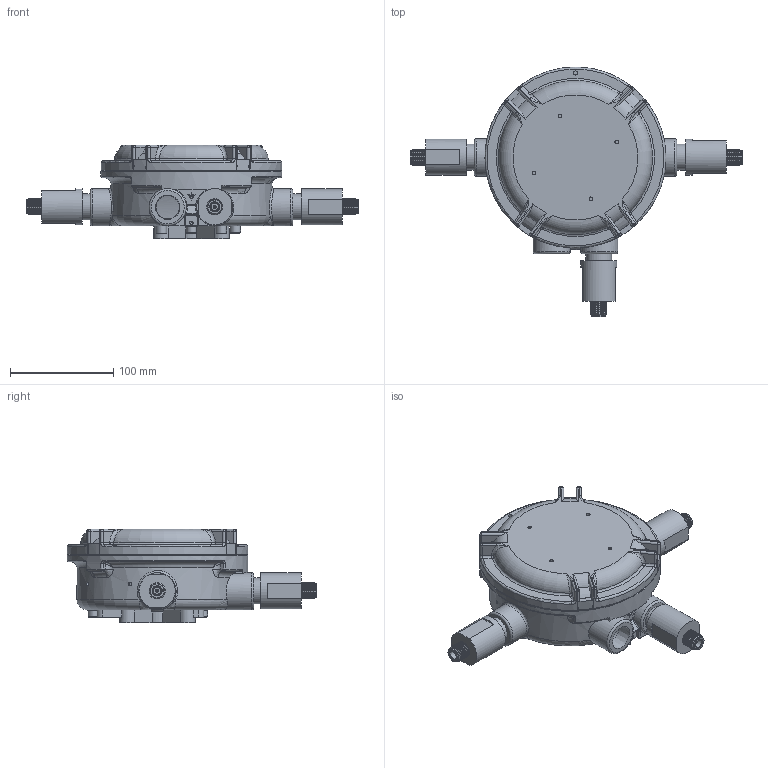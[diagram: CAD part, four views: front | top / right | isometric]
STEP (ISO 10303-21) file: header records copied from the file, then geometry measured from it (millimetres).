
FILE_DESCRIPTION(('FreeCAD Model'),'2;1');
FILE_NAME('Y:/SolexyUS-data/Solexy-public/Publ_Sales/04-stp dwg files/STP/WS_3Coupler.step','2020-02-28T16:11:36',('Author'),(''), 'Open CASCADE STEP processor 7.3','FreeCAD','Unknown');
FILE_SCHEMA(('AUTOMOTIVE_DESIGN { 1 0 10303 214 1 1 1 1 }'));
Length unit declared in the file: millimetre
Products named in the file (1): Fusion004
Bounding box: 321.14 x 241.73 x 90.5 mm (x, y, z)
Volume: 1759438.5 mm3; surface area: 164357.9 mm2
Topology: 1 solids, 45 shells, 918 faces, 2167 edges, 1302 vertices
Faces by surface type: cylinder 257, plane 233, cone 209, bspline 113, torus 87, sphere 19
Full cylindrical faces by diameter (mm): 1.72 x3, 3 x3, 3.242 x10, 3.5 x8, 3.683 x2, 4 x1, 4.917 x4, 5.309 x3, 6.35 x3, 6.647 x4, 7.1 x3, 9.791 x1, 10 x1, 13.2 x3, 13.8 x3, 14.732 x21, 15.67 x3, 17.394 x3, 17.462 x6, 22.631 x4, 24.994 x3, 34.925 x3, 36 x4, 132 x1, 150 x2, 151 x2, 152 x2, 175 x2
Entity records: 40550 total; most frequent: CARTESIAN_POINT 14309, ORIENTED_EDGE 4208, DIRECTION 3936, EDGE_CURVE 2104, AXIS2_PLACEMENT_3D 1726, VERTEX_POINT 1302, FACE_BOUND 1011, EDGE_LOOP 1011
